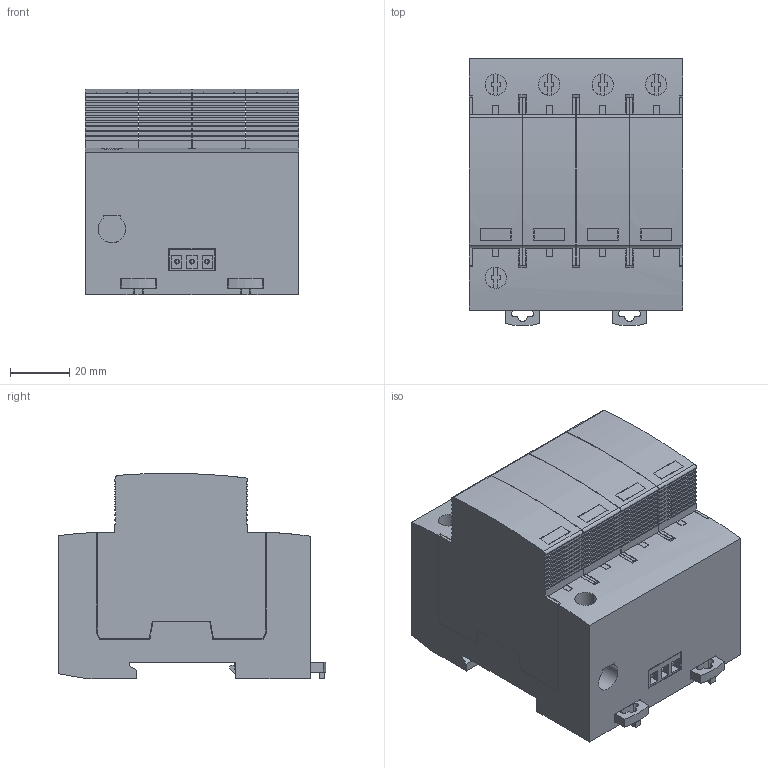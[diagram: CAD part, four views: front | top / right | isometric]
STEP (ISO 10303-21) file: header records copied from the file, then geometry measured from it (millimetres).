
FILE_DESCRIPTION((''),'2;1');
FILE_NAME('SB115257_3D-CAD_ASM','2025-12-12T20:16:32',('SESA644935'),('Schneider-Electric'),'CREO PARAMETRIC BY PTC INC, 2022484','CREO PARAMETRIC BY PTC INC, 2022484','');
FILE_SCHEMA(('AP242_MANAGED_MODEL_BASED_3D_ENGINEERING_MIM_LF { 1 0 10303 442 1 1 4 }'));
Length unit declared in the file: millimetre
Products named in the file (9): A9L20600-3D_1_1; A9L20600-3D_1_2; A9L20600-3D_1_3; A9L20600-3D_1_4; A9L20600-3D_1_5; A9L20600-3D_1_6; A9L20600-3D_1_7; SB115257_3D_ASM; SB115257_3D-CAD_ASM
Assembly tree (8 placements, depth 3):
  SB115257_3D-CAD_ASM
    SB115257_3D_ASM
      A9L20600-3D_1_1
      A9L20600-3D_1_2
      A9L20600-3D_1_3
      A9L20600-3D_1_4
      A9L20600-3D_1_5
      A9L20600-3D_1_6
      A9L20600-3D_1_7
Bounding box: 71.9 x 90 x 69.15 mm (x, y, z)
Volume: 339179.3 mm3; surface area: 73682.2 mm2
Topology: 7 solids, 7 shells, 883 faces, 2593 edges, 1746 vertices
Faces by surface type: plane 820, cylinder 63
Entity records: 29738 total; most frequent: CARTESIAN_POINT 5467, ORIENTED_EDGE 5186, DIRECTION 4639, EDGE_CURVE 2593, VECTOR 2305, LINE 2305, VERTEX_POINT 1746, AXIS2_PLACEMENT_3D 1167
